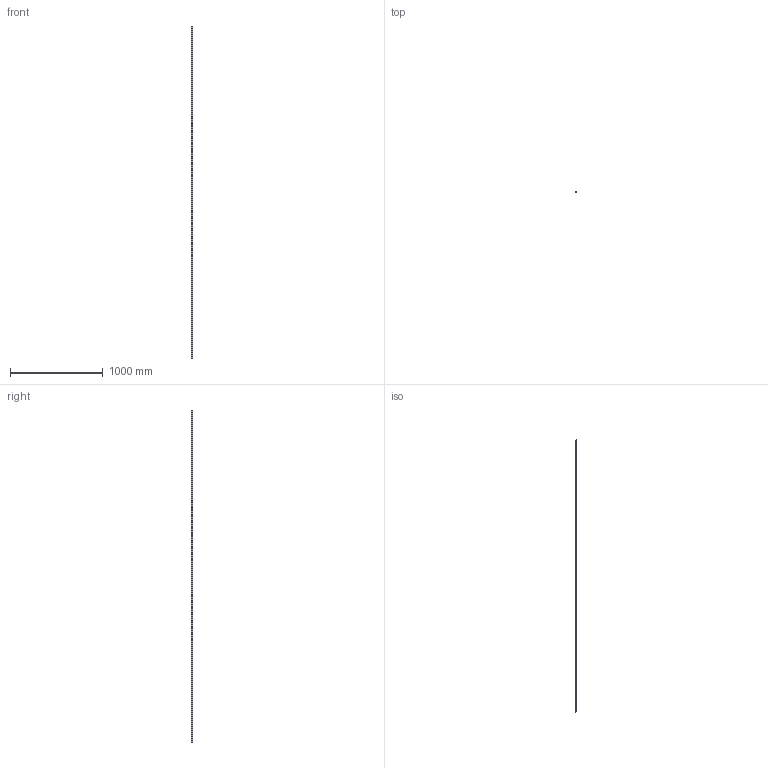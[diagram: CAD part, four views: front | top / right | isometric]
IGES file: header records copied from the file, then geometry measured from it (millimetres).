
Start section: SolidWorks IGES file using analytic representation for surfaces
Global section: file name: C:\Users\IanO\Desktop\L1016_v2\L1016.BL15_v2\L1016.BL15_v2_20190611_IGES\L1016.BL15-3580.igs; native system: SolidWorks 2017; preprocessor: SolidWorks 2017; author: IanO; date: 190612.123659; units: millimetre
Bounding box: 15 x 13 x 3580 mm (x, y, z)
Surface area: 218557.2 mm2 (no closed solid volume)
Topology: 0 solids, 0 shells, 326 faces, 8792 edges, 8792 vertices
Faces by surface type: revolution 244, bspline 82
